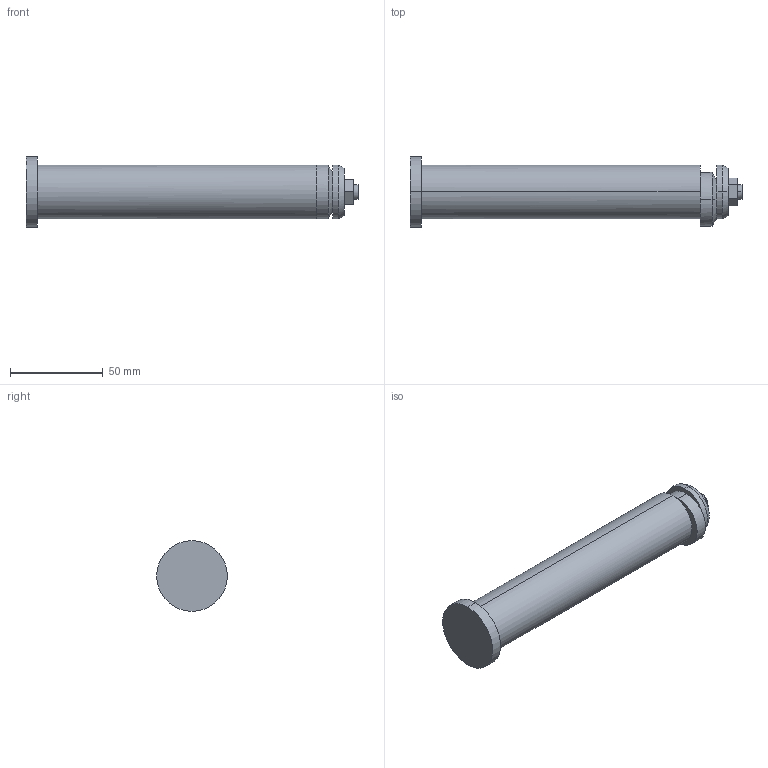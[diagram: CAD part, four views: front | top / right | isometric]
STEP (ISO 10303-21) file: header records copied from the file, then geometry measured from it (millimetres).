
FILE_DESCRIPTION(('CATIA V5 STEP Exchange'),'2;1');
FILE_NAME('C:\Users\Raffaele\Desktop\3D X SITO CF\PERNI -STAFFE SOLLEVAMENTO\395PSF\GSB_OILLESS_C10302029150\STEP-2.03\395PSF-1.stp','2019-07-03T08:28:22+00:00',('none'),('none'),'CATIA Version 5 Release 20 GA (IN-10)','CATIA V5 STEP AP203','none');
FILE_SCHEMA(('CONFIG_CONTROL_DESIGN'));
Length unit declared in the file: millimetre
Products named in the file (1): 395PSF-1
Bounding box: 178.5 x 38 x 38 mm (x, y, z)
Volume: 114105.3 mm3; surface area: 20064.5 mm2
Topology: 1 solids, 2 shells, 34 faces, 100 edges, 74 vertices
Faces by surface type: plane 16, cylinder 14, cone 4
Entity records: 1361 total; most frequent: CARTESIAN_POINT 420, ORIENTED_EDGE 200, DIRECTION 151, EDGE_CURVE 100, AXIS2_PLACEMENT_3D 82, VERTEX_POINT 74, CIRCLE 47, EDGE_LOOP 40
